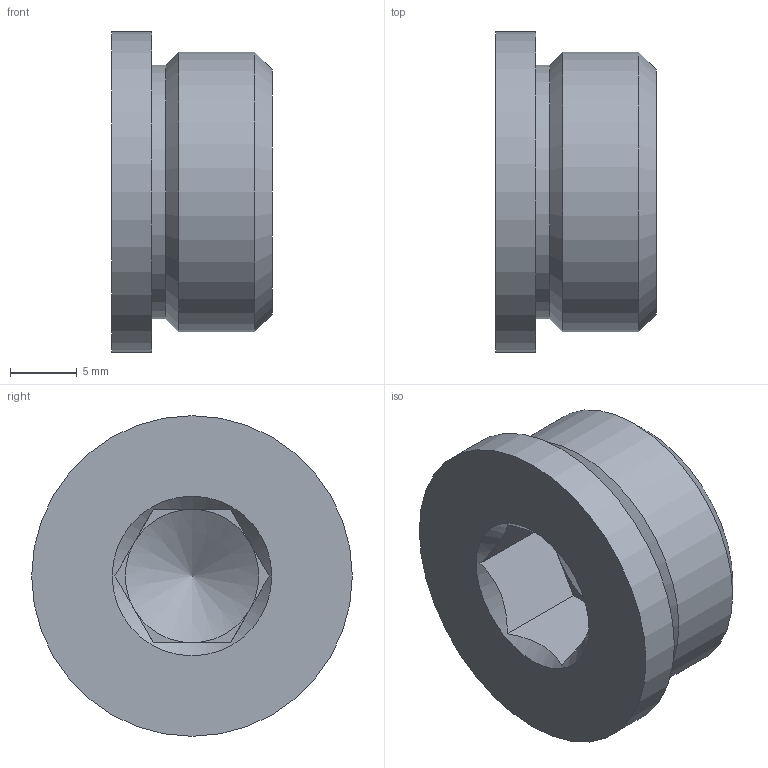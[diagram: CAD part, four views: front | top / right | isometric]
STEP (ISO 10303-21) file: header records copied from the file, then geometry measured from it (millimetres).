
FILE_DESCRIPTION (( 'STEP AP214' ), '1' );
FILE_NAME ('70943_G1-2.step', '2022-01-25T13:41:52', ( '' ), ( '' ), 'SwSTEP 2.0', 'SolidWorks 2017', '' );
FILE_SCHEMA (( 'AUTOMOTIVE_DESIGN' ));
Length unit declared in the file: millimetre
Products named in the file (2): 70943_G1-2; 70943_70943_G1-2
Assembly tree (1 placements, depth 2):
  70943_G1-2
    70943_70943_G1-2
Bounding box: 12 x 24 x 24 mm (x, y, z)
Volume: 3589.6 mm3; surface area: 2495 mm2
Topology: 2 solids, 2 shells, 32 faces, 64 edges, 38 vertices
Faces by surface type: plane 18, cylinder 6, torus 4, cone 4
Full cylindrical faces by diameter (mm): 19 x2, 20.96 x1, 23 x2, 24 x1
Entity records: 972 total; most frequent: CARTESIAN_POINT 194, DIRECTION 138, ORIENTED_EDGE 96, AXIS2_PLACEMENT_3D 60, EDGE_LOOP 50, EDGE_CURVE 48, FACE_OUTER_BOUND 42, VERTEX_POINT 36
